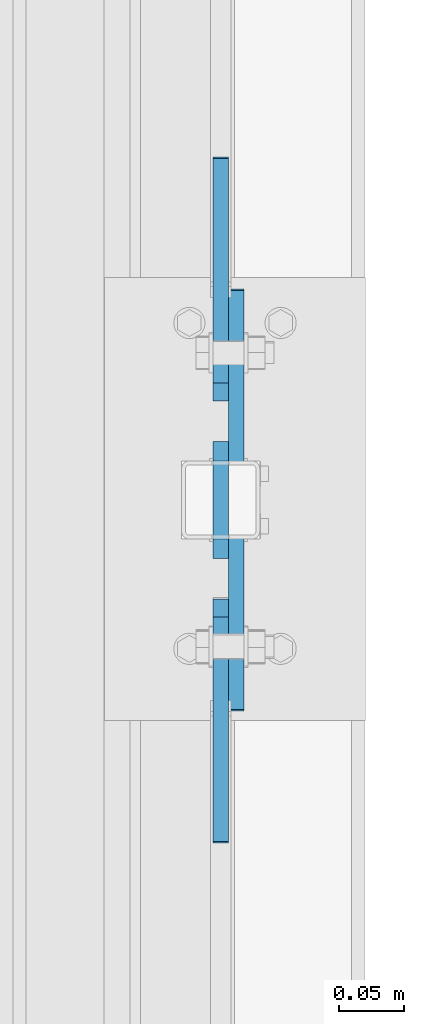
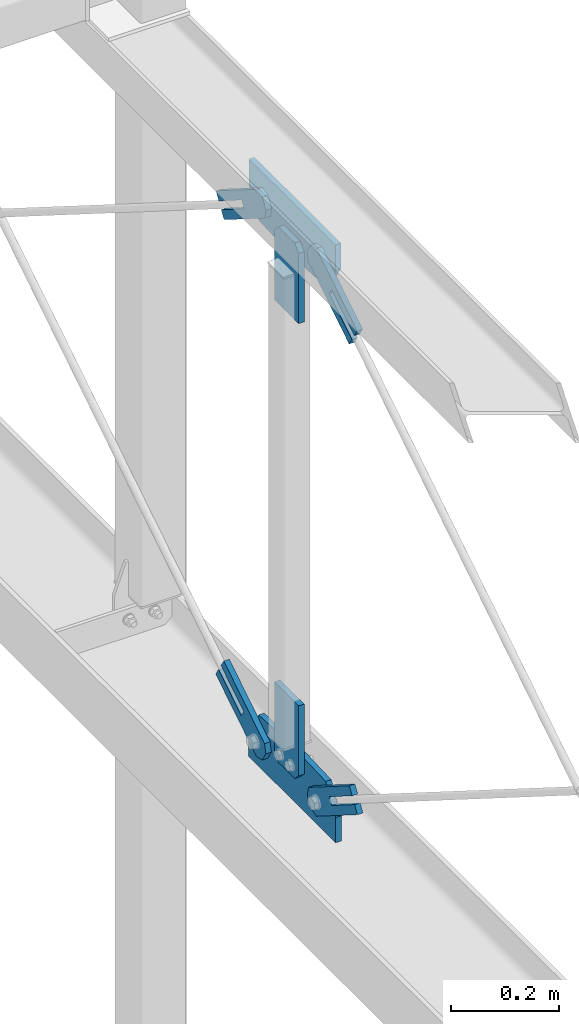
# One storey, part 168 of 271: 8 plates, 7 elements without a shape of their own.
"""IFC2X3 building model written with IfcOpenShell, lengths in millimetres."""

import ifcopenshell
import ifcopenshell.guid

model = None  # the IFC model being written
_history = None  # IfcOwnerHistory: only IFC2X3 demands one
_inside = {}  # id of a spatial element -> (the spatial element, [elements in it])
_under = {}  # id of a project, library or spatial element -> (it, [spatial elements below it])
_declared = {}  # id of a project -> (the project, [libraries it declares])
_typed = {}  # id of a type object -> (the type object, [elements of that type])
_made_of = {}  # id of a material, layer set ... -> (it, [elements and type objects made of it])


def new_model(schema):
    """Start an empty IFC model of exactly this schema.

    Asked for "IFC4X3", IfcOpenShell would pick the latest addendum, in which some entities
    have other attributes; the version numbers below select the first issue.
    IFC2X3 requires an IfcOwnerHistory on every rooted entity: one is made here for all.
    """
    global model, _history
    if schema == "IFC4X3":
        model = ifcopenshell.file(schema_version=(4, 3, 0, 0))
    else:
        model = ifcopenshell.file(schema=schema)
    _inside.clear()
    _under.clear()
    _declared.clear()
    _typed.clear()
    _made_of.clear()
    _history = None
    if model.schema == "IFC2X3":
        org = make("IfcOrganization", Name="unknown")
        user = make(
            "IfcPersonAndOrganization",
            ThePerson=make("IfcPerson", FamilyName="unknown"),
            TheOrganization=org,
        )
        app = make(
            "IfcApplication",
            ApplicationDeveloper=org,
            Version="unknown",
            ApplicationFullName="unknown",
            ApplicationIdentifier="unknown",
        )
        _history = make(
            "IfcOwnerHistory",
            OwningUser=user,
            OwningApplication=app,
            ChangeAction="ADDED",
            CreationDate=0,
        )
    return model


def make(cls, **values):
    """One entity of the class cls with the attributes given. An attribute that is None is left unset."""
    return model.create_entity(
        cls, **{name: value for name, value in values.items() if value is not None}
    )


def rooted(cls, **values):
    """An entity with a GlobalId (a new one), such as an element, a storey or a relation."""
    return make(cls, GlobalId=ifcopenshell.guid.new(), OwnerHistory=_history, **values)


def si_unit(unit_type, name, prefix=None):
    """IfcSIUnit, for example si_unit("LENGTHUNIT", "METRE", prefix="MILLI")."""
    return make("IfcSIUnit", UnitType=unit_type, Prefix=prefix, Name=name)


def assignment(units):
    """IfcUnitAssignment: the units of a project."""
    return None if units is None else make("IfcUnitAssignment", Units=units)


def point(xyz):
    """IfcCartesianPoint."""
    return None if xyz is None else make("IfcCartesianPoint", Coordinates=xyz)


def direction(xyz):
    """IfcDirection."""
    return None if xyz is None else make("IfcDirection", DirectionRatios=xyz)


def frame(location, z_axis=None, x_axis=None):
    """IfcAxis2Placement3D, a coordinate frame: its origin and axes. An axis left out is left unset."""
    return make(
        "IfcAxis2Placement3D",
        Location=point(location),
        Axis=direction(z_axis),
        RefDirection=direction(x_axis),
    )


def origin_with_axes():
    """The frame at (0, 0, 0) with the z axis (0, 0, 1) and the x axis (1, 0, 0) written out."""
    return frame((0.0, 0.0, 0.0), z_axis=(0.0, 0.0, 1.0), x_axis=(1.0, 0.0, 0.0))


def place(relative_to, where):
    """IfcLocalPlacement: puts the frame where relative to a parent placement (None: the world)."""
    return make(
        "IfcLocalPlacement", PlacementRelTo=relative_to, RelativePlacement=where
    )


def context(
    kind, dimensions, precision=None, world=None, true_north=None, identifier=None
):
    """IfcGeometricRepresentationContext, for example the 3D "Model" context."""
    return make(
        "IfcGeometricRepresentationContext",
        ContextIdentifier=identifier,
        ContextType=kind,
        CoordinateSpaceDimension=dimensions,
        Precision=precision,
        WorldCoordinateSystem=world,
        TrueNorth=true_north,
    )


def subcontext(parent, identifier, kind, view, scale=None):
    """IfcGeometricRepresentationSubContext, for example "Body" below "Model"."""
    return make(
        "IfcGeometricRepresentationSubContext",
        ContextIdentifier=identifier,
        ContextType=kind,
        ParentContext=parent,
        TargetScale=scale,
        TargetView=view,
    )


def project(units=None, contexts=None):
    """IfcProject with its units and contexts."""
    return rooted(
        "IfcProject",
        Name="project",
        RepresentationContexts=contexts,
        UnitsInContext=assignment(units),
    )


def spatial(cls, under=None, at=None, **own):
    """A site, building, storey or space (cls), placed at a placement, below another one or the project."""
    s = rooted(cls, ObjectPlacement=at, **own)
    if under is not None:
        _under.setdefault(under.id(), (under, []))[1].append(s)
    return s


def polyline(points):
    """IfcPolyline through the points."""
    return make("IfcPolyline", Points=[point(p) for p in points])


def outline(outer, holes=None, kind="AREA"):
    """IfcArbitraryClosedProfileDef: a profile drawn as a closed curve; with holes, ...WithVoids."""
    if holes is None:
        return make("IfcArbitraryClosedProfileDef", ProfileType=kind, OuterCurve=outer)
    return make(
        "IfcArbitraryProfileDefWithVoids",
        ProfileType=kind,
        OuterCurve=outer,
        InnerCurves=holes,
    )


def extrude(swept, where, along, depth):
    """IfcExtrudedAreaSolid: the profile swept, set in the frame where, extruded along a direction by depth."""
    return make(
        "IfcExtrudedAreaSolid",
        SweptArea=swept,
        Position=where,
        ExtrudedDirection=direction(along),
        Depth=depth,
    )


def shape(context_of_items, identifier, shape_type, items):
    """IfcShapeRepresentation: the items that make up one representation, for example the "Body"."""
    return make(
        "IfcShapeRepresentation",
        ContextOfItems=context_of_items,
        RepresentationIdentifier=identifier,
        RepresentationType=shape_type,
        Items=items,
    )


def material(Name=None, Category=None):
    """IfcMaterial."""
    return make("IfcMaterial", Name=Name, Category=Category)


def made_of(thing, what):
    """Note that an element or type object is made of a material, layer set ...; save() writes the relation."""
    if what is not None:
        _made_of.setdefault(what.id(), (what, []))[1].append(thing)
    return thing


def type_object(cls, material=None, **own):
    """A type object (cls), such as IfcWallType, which elements share."""
    return made_of(rooted(cls, **own), material)


def element(
    cls,
    number,
    at=None,
    inside=None,
    cuts=None,
    type_object=None,
    material=None,
    context=None,
    identifier="Body",
    shape_type=None,
    held_by="IfcProductDefinitionShape",
    body=None,
    shapes=None,
    **own,
):
    """One element of the class cls, such as IfcWall. Its Tag is "e" and its number.

    at: its placement. inside: the storey or other place that contains it. cuts: it is an
    opening in that element (IfcRelVoidsElement). A single representation is given by context,
    identifier, shape_type and body (its items); several are given by shapes. held_by: the class
    of the entity that holds the representations. save() writes the other relations.
    """
    e = rooted(cls, Tag="e%d" % number, ObjectPlacement=at, **own)
    if body is not None:
        shapes = [shape(context, identifier, shape_type, body)]
    if shapes is not None:
        e.Representation = make(held_by, Representations=shapes)
    if inside is not None:
        _inside.setdefault(inside.id(), (inside, []))[1].append(e)
    if cuts is not None:
        rooted(
            "IfcRelVoidsElement", RelatingBuildingElement=cuts, RelatedOpeningElement=e
        )
    if type_object is not None:
        _typed.setdefault(type_object.id(), (type_object, []))[1].append(e)
    return made_of(e, material)


def aggregate(whole, parts):
    """IfcRelAggregates: a whole, such as a stair, and the parts it consists of."""
    return rooted("IfcRelAggregates", RelatingObject=whole, RelatedObjects=parts)


def save(model, path):
    """Write the relations noted so far, then the file.

    IfcRelAggregates (storeys below a building ...), IfcRelContainedInSpatialStructure (elements
    in a storey), IfcRelDefinesByType, IfcRelAssociatesMaterial and IfcRelDeclares: one each for
    every whole, place, type object, material and project.
    """
    for whole, parts in _under.values():
        aggregate(whole, parts)
    for where, things in _inside.values():
        rooted(
            "IfcRelContainedInSpatialStructure",
            RelatedElements=things,
            RelatingStructure=where,
        )
    for kind, things in _typed.values():
        rooted("IfcRelDefinesByType", RelatedObjects=things, RelatingType=kind)
    for what, things in _made_of.values():
        rooted("IfcRelAssociatesMaterial", RelatedObjects=things, RelatingMaterial=what)
    for by, libraries in _declared.values():
        rooted("IfcRelDeclares", RelatingContext=by, RelatedDefinitions=libraries)
    model.write(path)


model = new_model("IFC2X3")

# Units and contexts
model_context = context("Model", 3, precision=1e-05, world=origin_with_axes())
body_context = subcontext(model_context, "Body", "Model", "MODEL_VIEW")
ifc_project = project(units=[si_unit("LENGTHUNIT", "METRE", prefix="MILLI"), si_unit("AREAUNIT", "SQUARE_METRE"), si_unit("VOLUMEUNIT", "CUBIC_METRE"), si_unit("MASSUNIT", "GRAM", prefix="KILO"), si_unit("TIMEUNIT", "SECOND"), si_unit("PLANEANGLEUNIT", "RADIAN"), si_unit("SOLIDANGLEUNIT", "STERADIAN"), si_unit("THERMODYNAMICTEMPERATUREUNIT", "DEGREE_CELSIUS"), si_unit("LUMINOUSINTENSITYUNIT", "LUMEN")], contexts=[model_context])

# Site, building, storey
site_placement = place(None, origin_with_axes())
site = spatial("IfcSite", under=ifc_project, at=site_placement, Name="Undefined", CompositionType="ELEMENT")
building_placement = place(site_placement, origin_with_axes())
building = spatial("IfcBuilding", under=site, at=building_placement, Name="Undefined", CompositionType="ELEMENT")
storey_placement = place(building_placement, origin_with_axes())
storey = spatial("IfcBuildingStorey", under=building, at=storey_placement, Name="Undefined", CompositionType="ELEMENT", Elevation=0.0)

# Assembly, plate
assembly_1_placement = place(storey_placement, origin_with_axes())
assembly_1 = element("IfcElementAssembly", 1, at=assembly_1_placement, inside=storey, AssemblyPlace="NOTDEFINED", PredefinedType="RIGID_FRAME")
ifc_material = material(Name="STEEL/S355JR")
plate_type_1 = type_object("IfcPlateType", Name="BL12*56", PredefinedType="NOTDEFINED")
plate_1_placement = place(assembly_1_placement, frame((12597.7513741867, 2068.64984306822, 19967.7804275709), z_axis=(-1.0, 0.0, 1.38777878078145e-17), x_axis=(0.0, 0.975225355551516, -0.221213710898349)))
plate_1 = element("IfcPlate", 2, at=plate_1_placement, type_object=plate_type_1, material=ifc_material, Name="BLACHA", ObjectType="BL12*56", context=body_context, shape_type="SweptSolid", body=[
    extrude(outline(polyline([(0.0, 0.0), (21.2132034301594, 1.09139364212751e-11), (39.5979804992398, 18.3847751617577), (39.5979804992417, 39.5979804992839), (-86.9741363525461, 166.170089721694), (-100.762718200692, 152.381515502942), (-30.0520401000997, 81.670829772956), (-42.0728530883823, 69.6500167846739), (-112.783531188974, 140.36070251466), (-126.57211303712, 126.57211303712), (0.0, 0.0)])), frame((0.0, 0.0, -6.0), z_axis=(0.0, 0.0, 1.0), x_axis=(1.0, 0.0, 0.0)), (0.0, 0.0, 1.0), 12.0),
])
aggregate(assembly_1, [plate_1])

assembly_2_placement = place(storey_placement, origin_with_axes())
assembly_2 = element("IfcElementAssembly", 3, at=assembly_2_placement, inside=storey, AssemblyPlace="NOTDEFINED", PredefinedType="RIGID_FRAME")
plate_2_placement = place(assembly_2_placement, frame((12597.7513741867, 2259.87992582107, 19920.4038558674), z_axis=(-1.0, 0.0, 1.38777878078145e-17), x_axis=(0.0, -0.221213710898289, 0.97522535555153)))
plate_2 = element("IfcPlate", 4, at=plate_2_placement, type_object=plate_type_1, material=ifc_material, Name="BLACHA", ObjectType="BL12*56", context=body_context, shape_type="SweptSolid", body=[
    extrude(outline(polyline([(0.0, 0.0), (21.2132034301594, 1.09139364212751e-11), (39.5979804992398, 18.3847751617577), (39.5979804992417, 39.5979804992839), (-86.9741363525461, 166.170089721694), (-100.762718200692, 152.381515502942), (-30.0520401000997, 81.670829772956), (-42.0728530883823, 69.6500167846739), (-112.783531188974, 140.36070251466), (-126.57211303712, 126.57211303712), (0.0, 0.0)])), frame((0.0, 0.0, -6.0), z_axis=(0.0, 0.0, 1.0), x_axis=(1.0, 0.0, 0.0)), (0.0, 0.0, 1.0), 12.0),
])
aggregate(assembly_2, [plate_2])

assembly_3_placement = place(storey_placement, origin_with_axes())
assembly_3 = element("IfcElementAssembly", 5, at=assembly_3_placement, inside=storey, AssemblyPlace="NOTDEFINED", PredefinedType="RIGID_FRAME")
plate_3_placement = place(assembly_3_placement, frame((12597.7513741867, 2290.76865772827, 18681.5695731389), z_axis=(-1.0, 0.0, 1.38777878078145e-17), x_axis=(0.0, -0.975225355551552, 0.221213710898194)))
plate_3 = element("IfcPlate", 6, at=plate_3_placement, type_object=plate_type_1, material=ifc_material, Name="BLACHA", ObjectType="BL12*56", context=body_context, shape_type="SweptSolid", body=[
    extrude(outline(polyline([(0.0, 0.0), (21.2132034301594, 1.09139364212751e-11), (39.5979804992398, 18.3847751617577), (39.5979804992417, 39.5979804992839), (-86.9741363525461, 166.170089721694), (-100.762718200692, 152.381515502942), (-30.0520401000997, 81.670829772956), (-42.0728530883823, 69.6500167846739), (-112.783531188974, 140.36070251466), (-126.57211303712, 126.57211303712), (0.0, 0.0)])), frame((0.0, 0.0, -6.0), z_axis=(0.0, 0.0, 1.0), x_axis=(1.0, 0.0, 0.0)), (0.0, 0.0, 1.0), 12.0),
])
aggregate(assembly_3, [plate_3])

assembly_4_placement = place(storey_placement, origin_with_axes())
assembly_4 = element("IfcElementAssembly", 7, at=assembly_4_placement, inside=storey, AssemblyPlace="NOTDEFINED", PredefinedType="RIGID_FRAME")
plate_4_placement = place(assembly_4_placement, frame((12597.7513741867, 2097.47578325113, 18728.9461398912), z_axis=(-1.0, 0.0, 1.38777878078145e-17), x_axis=(0.0, 0.221213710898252, -0.975225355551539)))
plate_4 = element("IfcPlate", 8, at=plate_4_placement, type_object=plate_type_1, material=ifc_material, Name="BLACHA", ObjectType="BL12*56", context=body_context, shape_type="SweptSolid", body=[
    extrude(outline(polyline([(0.0, 0.0), (21.2132034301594, 1.09139364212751e-11), (39.5979804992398, 18.3847751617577), (39.5979804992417, 39.5979804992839), (-86.9741363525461, 166.170089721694), (-100.762718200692, 152.381515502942), (-30.0520401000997, 81.670829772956), (-42.0728530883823, 69.6500167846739), (-112.783531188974, 140.36070251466), (-126.57211303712, 126.57211303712), (0.0, 0.0)])), frame((0.0, 0.0, -6.0), z_axis=(0.0, 0.0, 1.0), x_axis=(1.0, 0.0, 0.0)), (0.0, 0.0, 1.0), 12.0),
])
aggregate(assembly_4, [plate_4])

# Assembly, plates
assembly_5_placement = place(storey_placement, origin_with_axes())
assembly_5 = element("IfcElementAssembly", 9, at=assembly_5_placement, inside=storey, AssemblyPlace="NOTDEFINED", PredefinedType="RIGID_FRAME")
plate_type_2 = type_object("IfcPlateType", Name="BL12*90", PredefinedType="NOTDEFINED")
plate_5_placement = place(assembly_5_placement, frame((12597.7513741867, 2134.19355050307, 19916.4686765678), z_axis=(-1.0, 0.0, 1.38777878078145e-17), x_axis=(0.0, 0.707106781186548, 0.707106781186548)))
plate_5 = element("IfcPlate", 10, at=plate_5_placement, type_object=plate_type_2, material=ifc_material, Name="BLACHA", ObjectType="BL12*90", context=body_context, shape_type="SweptSolid", body=[
    extrude(outline(polyline([(0.0, 0.0), (21.2132034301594, 1.09139364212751e-11), (63.6396102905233, 42.4264068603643), (63.6396102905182, 63.6396102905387), (-48.7903671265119, 176.069595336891), (-59.0434150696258, 165.816543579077), (-102.176933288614, 122.683029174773), (-112.42997741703, 112.429977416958), (0.0, 0.0)])), frame((0.0, 0.0, -6.0), z_axis=(0.0, 0.0, 1.0), x_axis=(1.0, 0.0, 0.0)), (0.0, 0.0, 1.0), 12.0),
])
plate_6_placement = place(assembly_5_placement, frame((12597.7513741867, 2224.19355050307, 18732.649999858), z_axis=(-1.0, 0.0, 1.38777878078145e-17), x_axis=(0.0, -0.707106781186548, -0.707106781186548)))
plate_6 = element("IfcPlate", 11, at=plate_6_placement, type_object=plate_type_2, material=ifc_material, Name="BLACHA", ObjectType="BL12*90", context=body_context, shape_type="SweptSolid", body=[
    extrude(outline(polyline([(0.0, 0.0), (21.2132034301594, 1.09139364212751e-11), (63.6396102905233, 42.4264068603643), (63.6396102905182, 63.6396102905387), (-48.7903671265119, 176.069595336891), (-59.0434150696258, 165.816543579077), (-102.176933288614, 122.683029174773), (-112.42997741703, 112.429977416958), (0.0, 0.0)])), frame((0.0, 0.0, -6.0), z_axis=(0.0, 0.0, 1.0), x_axis=(1.0, 0.0, 0.0)), (0.0, 0.0, 1.0), 12.0),
])
aggregate(assembly_5, [plate_5, plate_6])

# Assembly, plate
assembly_6_placement = place(storey_placement, origin_with_axes())
assembly_6 = element("IfcElementAssembly", 12, at=assembly_6_placement, inside=storey, AssemblyPlace="NOTDEFINED", PredefinedType="RIGID_FRAME")
plate_type_3 = type_object("IfcPlateType", Name="BL12*120", PredefinedType="NOTDEFINED")
plate_7_placement = place(assembly_6_placement, frame((12609.7513741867, 2018.38711547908, 20001.69999981), z_axis=(-1.0, 0.0, 1.38777878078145e-17), x_axis=(0.0, 1.0, 0.0)))
plate_7 = element("IfcPlate", 13, at=plate_7_placement, type_object=plate_type_3, material=ifc_material, Name="BLACHA", ObjectType="BL12*120", context=body_context, shape_type="SweptSolid", body=[
    extrude(outline(polyline([(0.0, 0.0), (321.612884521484, 0.0), (321.612884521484, 57.3216705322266), (284.291198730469, 116.542381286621), (210.806442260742, 120.231323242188), (110.806434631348, 120.231323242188), (37.3216705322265, 116.542381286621), (0.0, 57.3216705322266), (0.0, 0.0)])), frame((0.0, 0.0, -6.0), z_axis=(0.0, 0.0, 1.0), x_axis=(1.0, 0.0, 0.0)), (0.0, 0.0, 1.0), 12.0),
])
aggregate(assembly_6, [plate_7])

assembly_7_placement = place(storey_placement, origin_with_axes())
assembly_7 = element("IfcElementAssembly", 14, at=assembly_7_placement, inside=storey, AssemblyPlace="NOTDEFINED", PredefinedType="RIGID_FRAME")
plate_8_placement = place(assembly_7_placement, frame((12609.7513741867, 2341.03138597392, 18647.649999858), z_axis=(-1.0, 0.0, 1.38777878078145e-17), x_axis=(0.0, -1.0, 0.0)))
plate_8 = element("IfcPlate", 15, at=plate_8_placement, type_object=plate_type_3, material=ifc_material, Name="BLACHA", ObjectType="BL12*120", context=body_context, shape_type="SweptSolid", body=[
    extrude(outline(polyline([(0.0, 0.0), (323.675659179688, 0.0), (323.675659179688, 57.3216705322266), (286.35400390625, 116.542381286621), (201.571578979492, 120.0), (122.104080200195, 120.0), (37.3216705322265, 116.542381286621), (0.0, 57.3216705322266), (0.0, 0.0)])), frame((0.0, 0.0, -6.0), z_axis=(0.0, 0.0, 1.0), x_axis=(1.0, 0.0, 0.0)), (0.0, 0.0, 1.0), 12.0),
])
aggregate(assembly_7, [plate_8])

save(model, "model.ifc")
